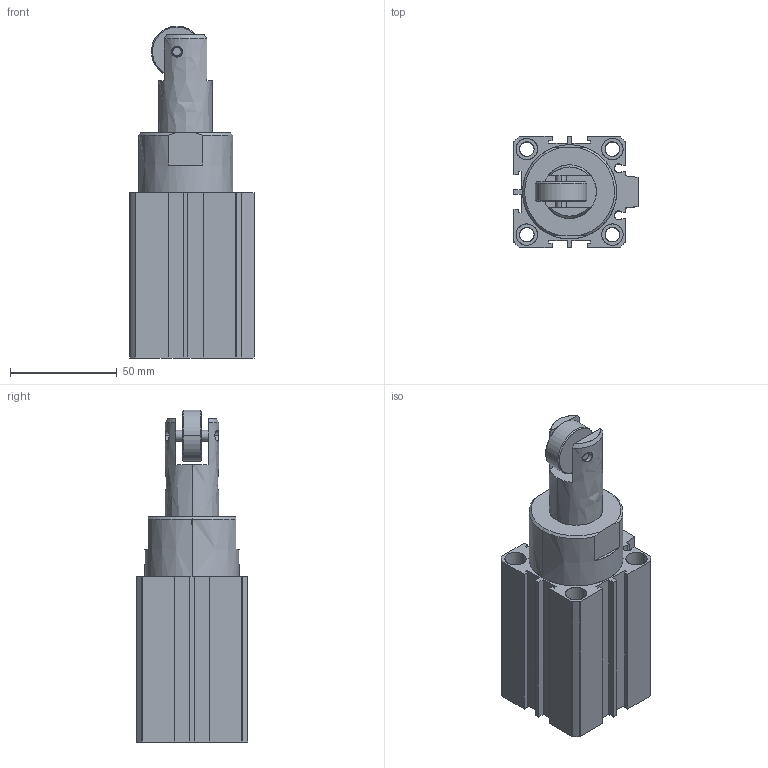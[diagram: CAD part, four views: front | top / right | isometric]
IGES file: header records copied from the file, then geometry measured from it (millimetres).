
Start section: SolidWorks IGES file using analytic representation for surfaces
Global section: file name: C:\Documents and Settings\admin\Bureau\stage de yaya\Plan Philippe Pince\PINCE\VUSB\pièces en 3D\VUSB STEP\ELOC-3DWG\ELOC-40-25-TIGE SORTIE.IGS; native system: SolidWorks 2007; preprocessor: SolidWorks 2007; author: admin; date: 080328.092230; units: millimetre
Bounding box: 58 x 52 x 155.2 mm (x, y, z)
Surface area: 55426.6 mm2 (no closed solid volume)
Topology: 0 solids, 0 shells, 848 faces, 10530 edges, 10568 vertices
Faces by surface type: bspline 775, revolution 73
